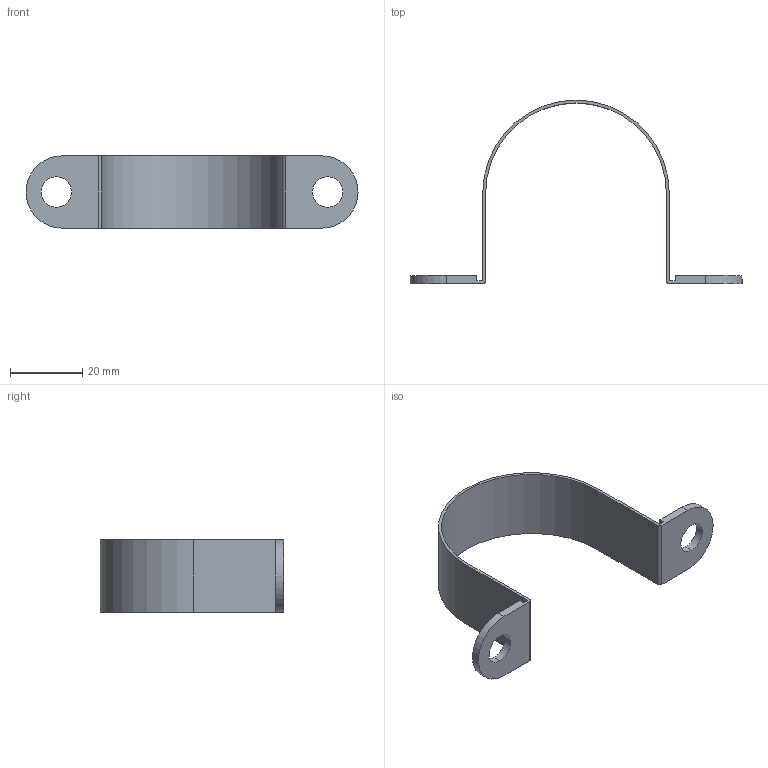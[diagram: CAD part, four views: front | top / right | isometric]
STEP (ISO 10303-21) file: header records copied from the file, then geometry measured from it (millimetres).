
FILE_DESCRIPTION (( 'STEP AP203' ), '1' );
FILE_NAME ('3D-R395_50_173762480.STEP', '2024-08-29T20:32:25', ( '' ), ( '' ), 'SwSTEP 2.0', 'SolidWorks 2024', '' );
FILE_SCHEMA (( 'CONFIG_CONTROL_DESIGN' ));
Length unit declared in the file: millimetre
Products named in the file (1): 3D-R395_50_173762480
Bounding box: 91.8 x 50.8 x 20 mm (x, y, z)
Volume: 3370.7 mm3; surface area: 7005.5 mm2
Topology: 1 solids, 1 shells, 26 faces, 72 edges, 48 vertices
Faces by surface type: plane 14, cylinder 12
Entity records: 925 total; most frequent: DIRECTION 150, CARTESIAN_POINT 147, ORIENTED_EDGE 144, EDGE_CURVE 72, AXIS2_PLACEMENT_3D 51, LINE 48, VECTOR 48, VERTEX_POINT 48
